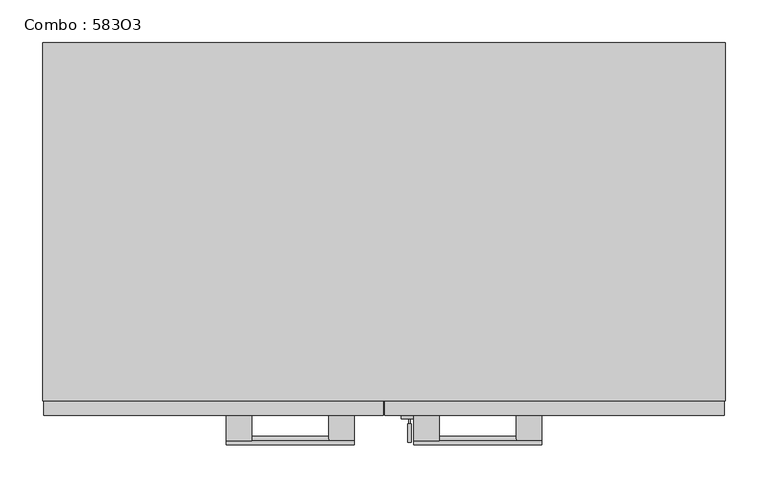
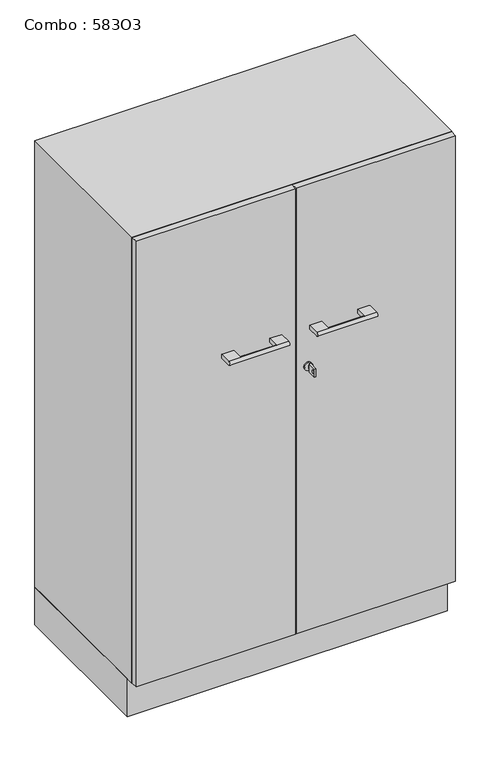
"""IFC4 building model written with IfcOpenShell, lengths in millimetres: furniture geometry, Combo : 583O3."""

import ifcopenshell
import ifcopenshell.guid

model = None  # the IFC model being written
_history = None  # IfcOwnerHistory: only IFC2X3 demands one
_inside = {}  # id of a spatial element -> (the spatial element, [elements in it])
_under = {}  # id of a project, library or spatial element -> (it, [spatial elements below it])
_declared = {}  # id of a project -> (the project, [libraries it declares])
_typed = {}  # id of a type object -> (the type object, [elements of that type])
_made_of = {}  # id of a material, layer set ... -> (it, [elements and type objects made of it])


def new_model(schema):
    """Start an empty IFC model of exactly this schema.

    Asked for "IFC4X3", IfcOpenShell would pick the latest addendum, in which some entities
    have other attributes; the version numbers below select the first issue.
    IFC2X3 requires an IfcOwnerHistory on every rooted entity: one is made here for all.
    """
    global model, _history
    if schema == "IFC4X3":
        model = ifcopenshell.file(schema_version=(4, 3, 0, 0))
    else:
        model = ifcopenshell.file(schema=schema)
    _inside.clear()
    _under.clear()
    _declared.clear()
    _typed.clear()
    _made_of.clear()
    _history = None
    if model.schema == "IFC2X3":
        org = make("IfcOrganization", Name="unknown")
        user = make(
            "IfcPersonAndOrganization",
            ThePerson=make("IfcPerson", FamilyName="unknown"),
            TheOrganization=org,
        )
        app = make(
            "IfcApplication",
            ApplicationDeveloper=org,
            Version="unknown",
            ApplicationFullName="unknown",
            ApplicationIdentifier="unknown",
        )
        _history = make(
            "IfcOwnerHistory",
            OwningUser=user,
            OwningApplication=app,
            ChangeAction="ADDED",
            CreationDate=0,
        )
    return model


def make(cls, **values):
    """One entity of the class cls with the attributes given. An attribute that is None is left unset."""
    return model.create_entity(
        cls, **{name: value for name, value in values.items() if value is not None}
    )


def rooted(cls, **values):
    """An entity with a GlobalId (a new one), such as an element, a storey or a relation."""
    return make(cls, GlobalId=ifcopenshell.guid.new(), OwnerHistory=_history, **values)


def si_unit(unit_type, name, prefix=None):
    """IfcSIUnit, for example si_unit("LENGTHUNIT", "METRE", prefix="MILLI")."""
    return make("IfcSIUnit", UnitType=unit_type, Prefix=prefix, Name=name)


def assignment(units):
    """IfcUnitAssignment: the units of a project."""
    return None if units is None else make("IfcUnitAssignment", Units=units)


def point(xyz):
    """IfcCartesianPoint."""
    return None if xyz is None else make("IfcCartesianPoint", Coordinates=xyz)


def direction(xyz):
    """IfcDirection."""
    return None if xyz is None else make("IfcDirection", DirectionRatios=xyz)


def frame(location, z_axis=None, x_axis=None):
    """IfcAxis2Placement3D, a coordinate frame: its origin and axes. An axis left out is left unset."""
    return make(
        "IfcAxis2Placement3D",
        Location=point(location),
        Axis=direction(z_axis),
        RefDirection=direction(x_axis),
    )


def frame_2d(location, x_axis=None):
    """IfcAxis2Placement2D, a coordinate frame in the plane: its origin and x axis."""
    return make(
        "IfcAxis2Placement2D", Location=point(location), RefDirection=direction(x_axis)
    )


def origin():
    """The frame at (0, 0, 0) with its axes left unset."""
    return frame((0.0, 0.0, 0.0))


def origin_with_axes():
    """The frame at (0, 0, 0) with the z axis (0, 0, 1) and the x axis (1, 0, 0) written out."""
    return frame((0.0, 0.0, 0.0), z_axis=(0.0, 0.0, 1.0), x_axis=(1.0, 0.0, 0.0))


def place(relative_to, where):
    """IfcLocalPlacement: puts the frame where relative to a parent placement (None: the world)."""
    return make(
        "IfcLocalPlacement", PlacementRelTo=relative_to, RelativePlacement=where
    )


def context(
    kind, dimensions, precision=None, world=None, true_north=None, identifier=None
):
    """IfcGeometricRepresentationContext, for example the 3D "Model" context."""
    return make(
        "IfcGeometricRepresentationContext",
        ContextIdentifier=identifier,
        ContextType=kind,
        CoordinateSpaceDimension=dimensions,
        Precision=precision,
        WorldCoordinateSystem=world,
        TrueNorth=true_north,
    )


def project(units=None, contexts=None):
    """IfcProject with its units and contexts."""
    return rooted(
        "IfcProject",
        Name="project",
        RepresentationContexts=contexts,
        UnitsInContext=assignment(units),
    )


def spatial(cls, under=None, at=None, **own):
    """A site, building, storey or space (cls), placed at a placement, below another one or the project."""
    s = rooted(cls, ObjectPlacement=at, **own)
    if under is not None:
        _under.setdefault(under.id(), (under, []))[1].append(s)
    return s


def polyline(points):
    """IfcPolyline through the points."""
    return make("IfcPolyline", Points=[point(p) for p in points])


def circle_curve(where, radius):
    """IfcCircle in the frame where."""
    return make("IfcCircle", Position=where, Radius=radius)


def trimmed(basis, trim1, trim2, sense, master):
    """IfcTrimmedCurve: the piece of a basis curve between two trims."""
    return make(
        "IfcTrimmedCurve",
        BasisCurve=basis,
        Trim1=trim1,
        Trim2=trim2,
        SenseAgreement=sense,
        MasterRepresentation=master,
    )


def segment(curve, same_sense, transition):
    """IfcCompositeCurveSegment."""
    return make(
        "IfcCompositeCurveSegment",
        Transition=transition,
        SameSense=same_sense,
        ParentCurve=curve,
    )


def composite_curve(segments, self_intersect=None):
    """IfcCompositeCurve: segments joined end to end."""
    return make("IfcCompositeCurve", Segments=segments, SelfIntersect=self_intersect)


def outline(outer, holes=None, kind="AREA"):
    """IfcArbitraryClosedProfileDef: a profile drawn as a closed curve; with holes, ...WithVoids."""
    if holes is None:
        return make("IfcArbitraryClosedProfileDef", ProfileType=kind, OuterCurve=outer)
    return make(
        "IfcArbitraryProfileDefWithVoids",
        ProfileType=kind,
        OuterCurve=outer,
        InnerCurves=holes,
    )


def extrude(swept, where, along, depth):
    """IfcExtrudedAreaSolid: the profile swept, set in the frame where, extruded along a direction by depth."""
    return make(
        "IfcExtrudedAreaSolid",
        SweptArea=swept,
        Position=where,
        ExtrudedDirection=direction(along),
        Depth=depth,
    )


def shape(context_of_items, identifier, shape_type, items):
    """IfcShapeRepresentation: the items that make up one representation, for example the "Body"."""
    return make(
        "IfcShapeRepresentation",
        ContextOfItems=context_of_items,
        RepresentationIdentifier=identifier,
        RepresentationType=shape_type,
        Items=items,
    )


def source(mapping_origin, context_of_items, identifier, shape_type, items):
    """IfcRepresentationMap: a shape defined once, which mapped items show again and again."""
    return make(
        "IfcRepresentationMap",
        MappingOrigin=mapping_origin,
        MappedRepresentation=shape(context_of_items, identifier, shape_type, items),
    )


def transform(
    local_origin,
    x_axis=None,
    y_axis=None,
    z_axis=None,
    scale=None,
    scale2=None,
    scale3=None,
    uniform=True,
):
    """IfcCartesianTransformationOperator3D, or its non-uniform kind. x_axis, y_axis, z_axis: its Axis1, 2, 3."""
    if uniform:
        return make(
            "IfcCartesianTransformationOperator3D",
            Axis1=direction(x_axis),
            Axis2=direction(y_axis),
            LocalOrigin=point(local_origin),
            Scale=scale,
            Axis3=direction(z_axis),
        )
    return make(
        "IfcCartesianTransformationOperator3DnonUniform",
        Axis1=direction(x_axis),
        Axis2=direction(y_axis),
        LocalOrigin=point(local_origin),
        Scale=scale,
        Axis3=direction(z_axis),
        Scale2=scale2,
        Scale3=scale3,
    )


def mapped(mapping_source, mapping_target):
    """IfcMappedItem: shows the shape of a source again, moved by a transform."""
    return make(
        "IfcMappedItem", MappingSource=mapping_source, MappingTarget=mapping_target
    )


def made_of(thing, what):
    """Note that an element or type object is made of a material, layer set ...; save() writes the relation."""
    if what is not None:
        _made_of.setdefault(what.id(), (what, []))[1].append(thing)
    return thing


def element(
    cls,
    number,
    at=None,
    inside=None,
    cuts=None,
    type_object=None,
    material=None,
    context=None,
    identifier="Body",
    shape_type=None,
    held_by="IfcProductDefinitionShape",
    body=None,
    shapes=None,
    **own,
):
    """One element of the class cls, such as IfcWall. Its Tag is "e" and its number.

    at: its placement. inside: the storey or other place that contains it. cuts: it is an
    opening in that element (IfcRelVoidsElement). A single representation is given by context,
    identifier, shape_type and body (its items); several are given by shapes. held_by: the class
    of the entity that holds the representations. save() writes the other relations.
    """
    e = rooted(cls, Tag="e%d" % number, ObjectPlacement=at, **own)
    if body is not None:
        shapes = [shape(context, identifier, shape_type, body)]
    if shapes is not None:
        e.Representation = make(held_by, Representations=shapes)
    if inside is not None:
        _inside.setdefault(inside.id(), (inside, []))[1].append(e)
    if cuts is not None:
        rooted(
            "IfcRelVoidsElement", RelatingBuildingElement=cuts, RelatedOpeningElement=e
        )
    if type_object is not None:
        _typed.setdefault(type_object.id(), (type_object, []))[1].append(e)
    return made_of(e, material)


def aggregate(whole, parts):
    """IfcRelAggregates: a whole, such as a stair, and the parts it consists of."""
    return rooted("IfcRelAggregates", RelatingObject=whole, RelatedObjects=parts)


def save(model, path):
    """Write the relations noted so far, then the file.

    IfcRelAggregates (storeys below a building ...), IfcRelContainedInSpatialStructure (elements
    in a storey), IfcRelDefinesByType, IfcRelAssociatesMaterial and IfcRelDeclares: one each for
    every whole, place, type object, material and project.
    """
    for whole, parts in _under.values():
        aggregate(whole, parts)
    for where, things in _inside.values():
        rooted(
            "IfcRelContainedInSpatialStructure",
            RelatedElements=things,
            RelatingStructure=where,
        )
    for kind, things in _typed.values():
        rooted("IfcRelDefinesByType", RelatedObjects=things, RelatingType=kind)
    for what, things in _made_of.values():
        rooted("IfcRelAssociatesMaterial", RelatedObjects=things, RelatingMaterial=what)
    for by, libraries in _declared.values():
        rooted("IfcRelDeclares", RelatingContext=by, RelatedDefinitions=libraries)
    model.write(path)


def plane_surface(at):
    """IfcPlane: the flat surface through the origin of the frame at, square to its z axis."""
    return make("IfcPlane", Position=at)


def cylinder_surface(at, radius):
    """IfcCylindricalSurface: all points at the distance radius from the z axis of the frame at."""
    return make("IfcCylindricalSurface", Position=at, Radius=radius)


def advanced_brep(points, edges, surfaces, faces):
    """IfcAdvancedBrep: a solid bounded by faces that lie on surfaces and meet in shared edges.

    An edge is (start, end): straight between two places in points (the first is 0);
    or (start, end, curve); or (start, end, curve, False) where it runs against its curve.
    A face is (place in surfaces, loops), or (place, loops, False) where it looks against
    its surface's normal. A loop lists edges by number (the first is 1), with a minus sign
    where the edge is run from its end to its start. The first loop is the outer one.
    """
    corners = [point(p) for p in points]
    vertices = [make("IfcVertexPoint", VertexGeometry=c) for c in corners]
    made = []
    for start, end, *more in edges:
        made.append(
            make(
                "IfcEdgeCurve",
                EdgeStart=vertices[start],
                EdgeEnd=vertices[end],
                EdgeGeometry=more[0] if more else make("IfcPolyline", Points=[corners[start], corners[end]]),
                SameSense=more[1] if len(more) > 1 else True,
            )
        )
    hull = []
    for where, loops, *sense in faces:
        bounds = []
        for j, loop in enumerate(loops):
            ring = [make("IfcOrientedEdge", EdgeElement=made[abs(k) - 1], Orientation=k > 0) for k in loop]
            bounds.append(
                make(
                    "IfcFaceOuterBound" if j == 0 else "IfcFaceBound",
                    Bound=make("IfcEdgeLoop", EdgeList=ring),
                    Orientation=True,
                )
            )
        hull.append(make("IfcAdvancedFace", Bounds=bounds, FaceSurface=surfaces[where], SameSense=sense[0] if sense else True))
    return make("IfcAdvancedBrep", Outer=make("IfcClosedShell", CfsFaces=hull))


def combo_583o3_67cd6d1d(model_context):
    return source(origin(), model_context, "Body", "SolidModel", [
        extrude(outline(polyline([(-400.0, -400.0), (-400.0, 0.0), (400.0, 0.0), (400.0, -400.0), (-400.0, -400.0)])), origin_with_axes(), (0.0, 0.0, 1.0), 100.0),
        extrude(outline(composite_curve([segment(trimmed(circle_curve(frame_2d((800.0, 30.0)), 10.0), [point((800.0, 20.0))], [point((800.0, 40.0))], False, "CARTESIAN"), True, "CONTINUOUS"), segment(trimmed(circle_curve(frame_2d((800.0, 30.0)), 10.0), [point((800.0, 40.0))], [point((800.0, 20.0))], False, "CARTESIAN"), True, "CONTINUOUS")], self_intersect=False)), frame((0.0, -441.0, 0.0), z_axis=(0.0, 1.0, 0.0), x_axis=(0.0, 0.0, 1.0)), (0.0, 0.0, 1.0), 4.0),
        extrude(outline(polyline([(-469.0, 789.014113), (-469.0, 811.0), (-447.0, 811.0), (-447.0, 789.014113), (-469.0, 789.014113)]), holes=[composite_curve([segment(trimmed(circle_curve(frame_2d((-462.75, 800.0070565)), 3.2230706), [point((-462.75, 803.2301271))], [point((-462.75, 796.7839859))], True, "CARTESIAN"), True, "CONTINUOUS"), segment(trimmed(circle_curve(frame_2d((-462.75, 800.0070565)), 3.2230706), [point((-462.75, 796.7839859))], [point((-462.75, 803.2301271))], True, "CARTESIAN"), True, "CONTINUOUS")], self_intersect=False)]), frame((28.0, 0.0, 0.0), z_axis=(1.0, 0.0, 0.0), x_axis=(0.0, 1.0, 0.0)), (0.0, 0.0, 1.0), 4.0416064),
        extrude(outline(polyline([(31.0416064, -447.0), (29.0, -447.0), (29.0, -441.0), (31.0416064, -441.0), (31.0416064, -447.0)])), frame((0.0, 0.0, 796.014113), z_axis=(0.0, 0.0, 1.0), x_axis=(1.0, 0.0, 0.0)), (0.0, 0.0, 1.0), 7.985887),
        advanced_brep(
        [(-185.0, -467.0, 905.0), (-185.0, -437.0, 905.0), (-185.0, -437.0, 895.0), (-185.0, -467.0, 895.0), (-155.0, -467.0, 895.0), (-155.0, -437.0, 895.0), (-155.0, -437.0, 905.0), (-155.0, -467.0, 905.0), (-35.0, -467.0, 905.0), (-35.0, -467.0, 895.0), (-35.0, -437.0, 895.0), (-35.0, -437.0, 905.0), (-65.0, -467.0, 905.0), (-65.0, -467.0, 895.0), (-65.0, -437.0, 905.0), (-65.0, -437.0, 895.0)],
        [
            (0, 1),
            (1, 2),
            (2, 3),
            (3, 0, circle_curve(frame((-185.0, -467.0, 900.0), z_axis=(-1.0, 0.0, 0.0), x_axis=(0.0, 0.0, -1.0)), 5.0)),
            (4, 5),
            (5, 6),
            (6, 7),
            (7, 4, circle_curve(frame((-155.0, -467.0, 900.0), z_axis=(-1.0, 0.0, 0.0), x_axis=(0.0, 0.0, -1.0)), 5.0)),
            (2, 5),
            (4, 3),
            (1, 6),
            (0, 7),
            (8, 9, circle_curve(frame((-35.0, -467.0, 900.0), z_axis=(1.0, 0.0, 0.0), x_axis=(0.0, 0.0, -1.0)), 5.0)),
            (9, 10),
            (10, 11),
            (11, 8),
            (8, 12),
            (12, 7),
            (4, 13),
            (13, 9),
            (12, 13, circle_curve(frame((-65.0, -467.0, 900.0), z_axis=(-1.0, 0.0, 0.0), x_axis=(0.0, 0.0, -1.0)), 5.0)),
            (12, 14),
            (14, 15),
            (15, 13),
            (15, 10),
            (14, 11),
        ],
        [
            plane_surface(frame((-185.0, -467.0, 906.0), z_axis=(-1.0, 0.0, 0.0), x_axis=(0.0, 0.0, 1.0))),
            plane_surface(frame((-155.0, -467.0, 906.0), z_axis=(1.0, 0.0, 0.0), x_axis=(0.0, 0.0, -1.0))),
            plane_surface(frame((-185.0, -437.0, 895.0), z_axis=(0.0, 0.0, -1.0), x_axis=(1.0, 0.0, 0.0))),
            plane_surface(frame((-185.0, -437.0, 905.0), z_axis=(0.0, 1.0, 0.0), x_axis=(1.0, 0.0, 0.0))),
            plane_surface(frame((-185.0, -467.0, 905.0), z_axis=(0.0, 0.0, 1.0), x_axis=(1.0, 0.0, 0.0))),
            plane_surface(frame((-35.0, -467.0, 895.0), z_axis=(1.0, 0.0, 0.0), x_axis=(0.0, 1.0, 0.0))),
            cylinder_surface(frame((-185.0, -467.0, 900.0), z_axis=(1.0, 0.0, 0.0), x_axis=(0.0, 0.0, -1.0)), 5.0),
            plane_surface(frame((-65.0, -555.7415577, 895.0), z_axis=(-1.0, 0.0, 0.0), x_axis=(0.0, -1.0, 0.0))),
            plane_surface(frame((-35.0, -467.0, 895.0), z_axis=(0.0, 0.0, -1.0), x_axis=(-1.0, 0.0, 0.0))),
            plane_surface(frame((-35.0, -437.0, 895.0), z_axis=(0.0, 1.0, 0.0), x_axis=(-1.0, 0.0, 0.0))),
            plane_surface(frame((-35.0, -437.0, 905.0), z_axis=(0.0, 0.0, 1.0), x_axis=(-1.0, 0.0, 0.0))),
        ],
        [
            (0, [[1, 2, 3, 4]]),
            (1, [[5, 6, 7, 8]]),
            (2, [[-3, 9, -5, 10]]),
            (3, [[-2, 11, -6, -9]]),
            (4, [[-1, 12, -7, -11]]),
            (5, [[13, 14, 15, 16]]),
            (6, [[-13, 17, 18, -12, -4, -10, 19, 20]]),
            (6, [[-8, -18, 21, -19]]),
            (7, [[22, 23, 24, -21]]),
            (8, [[-14, -20, -24, 25]]),
            (9, [[-15, -25, -23, 26]]),
            (10, [[-16, -26, -22, -17]]),
        ],
    ),
        advanced_brep(
        [(35.0, -467.0, 905.0), (35.0, -437.0, 905.0), (35.0, -437.0, 895.0), (35.0, -467.0, 895.0), (65.0, -467.0, 895.0), (65.0, -437.0, 895.0), (65.0, -437.0, 905.0), (65.0, -467.0, 905.0), (185.0, -467.0, 905.0), (185.0, -467.0, 895.0), (185.0, -437.0, 895.0), (185.0, -437.0, 905.0), (155.0, -467.0, 905.0), (155.0, -467.0, 895.0), (155.0, -437.0, 905.0), (155.0, -437.0, 895.0)],
        [
            (0, 1),
            (1, 2),
            (2, 3),
            (3, 0, circle_curve(frame((35.0, -467.0, 900.0), z_axis=(-1.0, 0.0, 0.0), x_axis=(0.0, 0.0, -1.0)), 5.0)),
            (4, 5),
            (5, 6),
            (6, 7),
            (7, 4, circle_curve(frame((65.0, -467.0, 900.0), z_axis=(-1.0, 0.0, 0.0), x_axis=(0.0, 0.0, -1.0)), 5.0)),
            (2, 5),
            (4, 3),
            (1, 6),
            (0, 7),
            (8, 9, circle_curve(frame((185.0, -467.0, 900.0), z_axis=(1.0, 0.0, 0.0), x_axis=(0.0, 0.0, -1.0)), 5.0)),
            (9, 10),
            (10, 11),
            (11, 8),
            (8, 12),
            (12, 7),
            (4, 13),
            (13, 9),
            (12, 13, circle_curve(frame((155.0, -467.0, 900.0), z_axis=(-1.0, 0.0, 0.0), x_axis=(0.0, 0.0, -1.0)), 5.0)),
            (12, 14),
            (14, 15),
            (15, 13),
            (15, 10),
            (14, 11),
        ],
        [
            plane_surface(frame((35.0, -467.0, 906.0), z_axis=(-1.0, 0.0, 0.0), x_axis=(0.0, 0.0, 1.0))),
            plane_surface(frame((65.0, -467.0, 906.0), z_axis=(1.0, 0.0, 0.0), x_axis=(0.0, 0.0, -1.0))),
            plane_surface(frame((35.0, -437.0, 895.0), z_axis=(0.0, 0.0, -1.0), x_axis=(1.0, 0.0, 0.0))),
            plane_surface(frame((35.0, -437.0, 905.0), z_axis=(0.0, 1.0, 0.0), x_axis=(1.0, 0.0, 0.0))),
            plane_surface(frame((35.0, -467.0, 905.0), z_axis=(0.0, 0.0, 1.0), x_axis=(1.0, 0.0, 0.0))),
            plane_surface(frame((185.0, -467.0, 895.0), z_axis=(1.0, 0.0, 0.0), x_axis=(0.0, 1.0, 0.0))),
            cylinder_surface(frame((35.0, -467.0, 900.0), z_axis=(1.0, 0.0, 0.0), x_axis=(0.0, 0.0, -1.0)), 5.0),
            plane_surface(frame((155.0, -555.7415577, 895.0), z_axis=(-1.0, 0.0, 0.0), x_axis=(0.0, -1.0, 0.0))),
            plane_surface(frame((185.0, -467.0, 895.0), z_axis=(0.0, 0.0, -1.0), x_axis=(-1.0, 0.0, 0.0))),
            plane_surface(frame((185.0, -437.0, 895.0), z_axis=(0.0, 1.0, 0.0), x_axis=(-1.0, 0.0, 0.0))),
            plane_surface(frame((185.0, -437.0, 905.0), z_axis=(0.0, 0.0, 1.0), x_axis=(-1.0, 0.0, 0.0))),
        ],
        [
            (0, [[1, 2, 3, 4]]),
            (1, [[5, 6, 7, 8]]),
            (2, [[-3, 9, -5, 10]]),
            (3, [[-2, 11, -6, -9]]),
            (4, [[-1, 12, -7, -11]]),
            (5, [[13, 14, 15, 16]]),
            (6, [[-13, 17, 18, -12, -4, -10, 19, 20]]),
            (6, [[-8, -18, 21, -19]]),
            (7, [[22, 23, 24, -21]]),
            (8, [[-14, -20, -24, 25]]),
            (9, [[-15, -25, -23, 26]]),
            (10, [[-16, -26, -22, -17]]),
        ],
    ),
        extrude(outline(polyline([(-1.0, -437.0), (-399.0, -437.0), (-399.0, -421.0), (-1.0, -421.0), (-1.0, -437.0)])), frame((0.0, 0.0, 101.0), z_axis=(0.0, 0.0, 1.0), x_axis=(1.0, 0.0, 0.0)), (0.0, 0.0, 1.0), 1178.0),
        extrude(outline(polyline([(399.0, -437.0), (1.0, -437.0), (1.0, -421.0), (399.0, -421.0), (399.0, -437.0)])), frame((0.0, 0.0, 101.0), z_axis=(0.0, 0.0, 1.0), x_axis=(1.0, 0.0, 0.0)), (0.0, 0.0, 1.0), 1178.0),
        extrude(outline(polyline([(400.0, 0.0), (400.0, -420.0), (-400.0, -420.0), (-400.0, 0.0), (400.0, 0.0)])), frame((0.0, 0.0, 100.0), z_axis=(0.0, 0.0, 1.0), x_axis=(1.0, 0.0, 0.0)), (0.0, 0.0, 1.0), 1180.0),
    ])


if __name__ == "__main__":
    model = new_model("IFC4")
    model_context = context("Model", 3, world=origin())
    ifc_project = project(units=[si_unit("LENGTHUNIT", "METRE", prefix="MILLI")], contexts=[model_context])
    site = spatial("IfcSite", under=ifc_project)
    building = spatial("IfcBuilding", under=site)
    placement = place(None, origin())
    combo_583o3_shape = combo_583o3_67cd6d1d(model_context)
    element("IfcFurniture", 1, ObjectType="Combo : 583O3", at=placement, inside=building, context=model_context, shape_type="MappedRepresentation", body=[
        mapped(combo_583o3_shape, transform((0.0, 0.0, 0.0), x_axis=(1.0, 0.0, 0.0), y_axis=(0.0, 1.0, 0.0), z_axis=(0.0, 0.0, 1.0))),
    ])
    save(model, "model.ifc")
